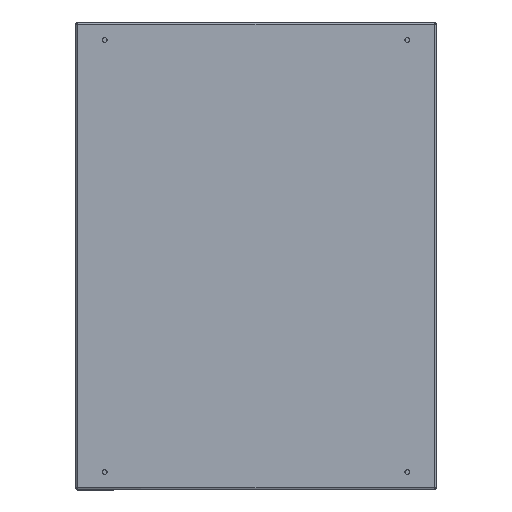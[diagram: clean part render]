
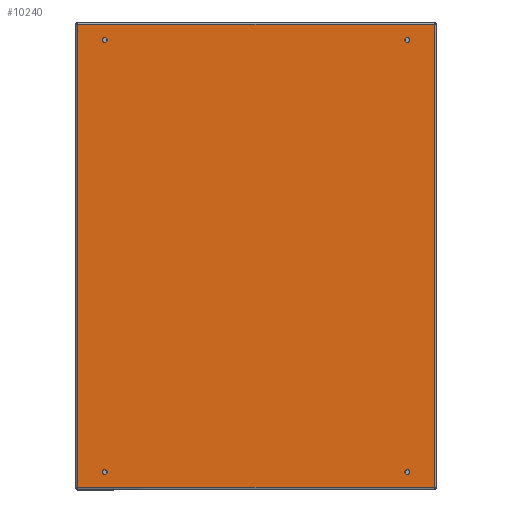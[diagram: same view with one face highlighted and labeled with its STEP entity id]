
A CAD part, front view. The second image highlights one B-rep face of the part: STEP entity #10240.
In plain terms, the highlighted planar face has unit normal (0, -1, 0).
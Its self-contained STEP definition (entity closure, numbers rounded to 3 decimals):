
#66 = CARTESIAN_POINT ( 'NONE',  ( 247.8, 0., -321.8 ) ) ;
#83 = EDGE_CURVE ( 'NONE', #7221, #2925, #1450, .T. ) ;
#265 = FACE_OUTER_BOUND ( 'NONE', #1356, .T. ) ;
#322 = LINE ( 'NONE', #8660, #8161 ) ;
#543 = CARTESIAN_POINT ( 'NONE',  ( -210., 0., -300. ) ) ;
#701 = ORIENTED_EDGE ( 'NONE', *, *, #5374, .T. ) ;
#963 = CIRCLE ( 'NONE', #6103, 3.25 ) ;
#1134 = CARTESIAN_POINT ( 'NONE',  ( -206.75, 0., 300. ) ) ;
#1356 = EDGE_LOOP ( 'NONE', ( #4377, #701, #9016, #1598 ) ) ;
#1370 = VERTEX_POINT ( 'NONE', #2521 ) ;
#1450 = LINE ( 'NONE', #7973, #10064 ) ;
#1506 = CIRCLE ( 'NONE', #8100, 3.25 ) ;
#1598 = ORIENTED_EDGE ( 'NONE', *, *, #83, .F. ) ;
#1719 = EDGE_CURVE ( 'NONE', #5055, #3778, #10534, .T. ) ;
#1799 = DIRECTION ( 'NONE',  ( 1., 0., 0. ) ) ;
#1872 = CARTESIAN_POINT ( 'NONE',  ( -247.8, 0., -321.8 ) ) ;
#1967 = AXIS2_PLACEMENT_3D ( 'NONE', #10855, #7459, #8274 ) ;
#2045 = AXIS2_PLACEMENT_3D ( 'NONE', #7253, #2173, #3876 ) ;
#2068 = ORIENTED_EDGE ( 'NONE', *, *, #6162, .T. ) ;
#2173 = DIRECTION ( 'NONE',  ( 0., 1., 0. ) ) ;
#2284 = VERTEX_POINT ( 'NONE', #3367 ) ;
#2339 = DIRECTION ( 'NONE',  ( 0., 1., 0. ) ) ;
#2467 = EDGE_LOOP ( 'NONE', ( #10931, #6896 ) ) ;
#2521 = CARTESIAN_POINT ( 'NONE',  ( 213.25, 0., 300. ) ) ;
#2693 = CIRCLE ( 'NONE', #1967, 3.25 ) ;
#2925 = VERTEX_POINT ( 'NONE', #7846 ) ;
#2934 = AXIS2_PLACEMENT_3D ( 'NONE', #5281, #10352, #3605 ) ;
#3020 = CARTESIAN_POINT ( 'NONE',  ( -206.75, 0., -300. ) ) ;
#3060 = FACE_BOUND ( 'NONE', #10220, .T. ) ;
#3071 = LINE ( 'NONE', #1872, #8380 ) ;
#3099 = DIRECTION ( 'NONE',  ( 0., 1., 0. ) ) ;
#3367 = CARTESIAN_POINT ( 'NONE',  ( -213.25, 0., 300. ) ) ;
#3605 = DIRECTION ( 'NONE',  ( -1., 0., 0. ) ) ;
#3637 = DIRECTION ( 'NONE',  ( 0., 1., 0. ) ) ;
#3672 = CIRCLE ( 'NONE', #2045, 3.25 ) ;
#3699 = CARTESIAN_POINT ( 'NONE',  ( 206.75, 0., -300. ) ) ;
#3709 = DIRECTION ( 'NONE',  ( 0., 0., 1. ) ) ;
#3715 = ORIENTED_EDGE ( 'NONE', *, *, #8061, .T. ) ;
#3778 = VERTEX_POINT ( 'NONE', #4024 ) ;
#3876 = DIRECTION ( 'NONE',  ( -1., 0., 0. ) ) ;
#3879 = AXIS2_PLACEMENT_3D ( 'NONE', #543, #2339, #6661 ) ;
#4024 = CARTESIAN_POINT ( 'NONE',  ( -213.25, 0., -300. ) ) ;
#4214 = AXIS2_PLACEMENT_3D ( 'NONE', #7082, #7966, #8049 ) ;
#4221 = EDGE_CURVE ( 'NONE', #1370, #8114, #3672, .T. ) ;
#4302 = DIRECTION ( 'NONE',  ( 0., 0., 1. ) ) ;
#4357 = CARTESIAN_POINT ( 'NONE',  ( -247.8, 0., -321.8 ) ) ;
#4377 = ORIENTED_EDGE ( 'NONE', *, *, #8479, .T. ) ;
#4399 = ORIENTED_EDGE ( 'NONE', *, *, #6423, .T. ) ;
#4413 = CIRCLE ( 'NONE', #3879, 3.25 ) ;
#4479 = CARTESIAN_POINT ( 'NONE',  ( 206.75, 0., 300. ) ) ;
#4512 = CARTESIAN_POINT ( 'NONE',  ( 210., 0., -300. ) ) ;
#4630 = AXIS2_PLACEMENT_3D ( 'NONE', #5871, #9096, #10004 ) ;
#5055 = VERTEX_POINT ( 'NONE', #3020 ) ;
#5281 = CARTESIAN_POINT ( 'NONE',  ( -247.8, 0., -324. ) ) ;
#5374 = EDGE_CURVE ( 'NONE', #5414, #6926, #10631, .T. ) ;
#5414 = VERTEX_POINT ( 'NONE', #6108 ) ;
#5626 = AXIS2_PLACEMENT_3D ( 'NONE', #8187, #3099, #7436 ) ;
#5871 = CARTESIAN_POINT ( 'NONE',  ( 210., 0., -300. ) ) ;
#5909 = ORIENTED_EDGE ( 'NONE', *, *, #1719, .T. ) ;
#5994 = VERTEX_POINT ( 'NONE', #9701 ) ;
#6103 = AXIS2_PLACEMENT_3D ( 'NONE', #4512, #3637, #7091 ) ;
#6108 = CARTESIAN_POINT ( 'NONE',  ( 247.8, 0., -321.8 ) ) ;
#6162 = EDGE_CURVE ( 'NONE', #5994, #8554, #8482, .T. ) ;
#6420 = VECTOR ( 'NONE', #4302, 1000. ) ;
#6423 = EDGE_CURVE ( 'NONE', #8114, #1370, #9265, .T. ) ;
#6489 = ORIENTED_EDGE ( 'NONE', *, *, #4221, .T. ) ;
#6528 = FACE_BOUND ( 'NONE', #10179, .T. ) ;
#6661 = DIRECTION ( 'NONE',  ( 1., 0., 0. ) ) ;
#6896 = ORIENTED_EDGE ( 'NONE', *, *, #8978, .T. ) ;
#6926 = VERTEX_POINT ( 'NONE', #8232 ) ;
#6982 = EDGE_LOOP ( 'NONE', ( #3715, #2068 ) ) ;
#7082 = CARTESIAN_POINT ( 'NONE',  ( 210., 0., 300. ) ) ;
#7091 = DIRECTION ( 'NONE',  ( -1., 0., 0. ) ) ;
#7221 = VERTEX_POINT ( 'NONE', #4357 ) ;
#7253 = CARTESIAN_POINT ( 'NONE',  ( 210., 0., 300. ) ) ;
#7436 = DIRECTION ( 'NONE',  ( 1., 0., 0. ) ) ;
#7459 = DIRECTION ( 'NONE',  ( 0., 1., 0. ) ) ;
#7575 = ORIENTED_EDGE ( 'NONE', *, *, #7638, .T. ) ;
#7638 = EDGE_CURVE ( 'NONE', #3778, #5055, #4413, .T. ) ;
#7648 = EDGE_CURVE ( 'NONE', #8489, #2284, #2693, .T. ) ;
#7846 = CARTESIAN_POINT ( 'NONE',  ( -247.8, 0., 321.8 ) ) ;
#7966 = DIRECTION ( 'NONE',  ( 0., 1., 0. ) ) ;
#7973 = CARTESIAN_POINT ( 'NONE',  ( -247.8, 0., -321.8 ) ) ;
#8049 = DIRECTION ( 'NONE',  ( -1., 0., 0. ) ) ;
#8061 = EDGE_CURVE ( 'NONE', #8554, #5994, #963, .T. ) ;
#8100 = AXIS2_PLACEMENT_3D ( 'NONE', #10013, #8202, #9004 ) ;
#8114 = VERTEX_POINT ( 'NONE', #4479 ) ;
#8161 = VECTOR ( 'NONE', #10303, 1000. ) ;
#8187 = CARTESIAN_POINT ( 'NONE',  ( -210., 0., -300. ) ) ;
#8202 = DIRECTION ( 'NONE',  ( 0., 1., 0. ) ) ;
#8232 = CARTESIAN_POINT ( 'NONE',  ( 247.8, 0., 321.8 ) ) ;
#8274 = DIRECTION ( 'NONE',  ( 1., 0., 0. ) ) ;
#8380 = VECTOR ( 'NONE', #1799, 1000. ) ;
#8479 = EDGE_CURVE ( 'NONE', #7221, #5414, #3071, .T. ) ;
#8482 = CIRCLE ( 'NONE', #4630, 3.25 ) ;
#8489 = VERTEX_POINT ( 'NONE', #1134 ) ;
#8554 = VERTEX_POINT ( 'NONE', #3699 ) ;
#8660 = CARTESIAN_POINT ( 'NONE',  ( 247.8, 0., 321.8 ) ) ;
#8783 = PLANE ( 'NONE',  #2934 ) ;
#8825 = EDGE_CURVE ( 'NONE', #6926, #2925, #322, .T. ) ;
#8978 = EDGE_CURVE ( 'NONE', #2284, #8489, #1506, .T. ) ;
#9004 = DIRECTION ( 'NONE',  ( 1., 0., 0. ) ) ;
#9016 = ORIENTED_EDGE ( 'NONE', *, *, #8825, .T. ) ;
#9096 = DIRECTION ( 'NONE',  ( 0., 1., 0. ) ) ;
#9265 = CIRCLE ( 'NONE', #4214, 3.25 ) ;
#9701 = CARTESIAN_POINT ( 'NONE',  ( 213.25, 0., -300. ) ) ;
#9826 = FACE_BOUND ( 'NONE', #6982, .T. ) ;
#10004 = DIRECTION ( 'NONE',  ( -1., 0., 0. ) ) ;
#10013 = CARTESIAN_POINT ( 'NONE',  ( -210., 0., 300. ) ) ;
#10064 = VECTOR ( 'NONE', #3709, 1000. ) ;
#10086 = FACE_BOUND ( 'NONE', #2467, .T. ) ;
#10179 = EDGE_LOOP ( 'NONE', ( #5909, #7575 ) ) ;
#10220 = EDGE_LOOP ( 'NONE', ( #4399, #6489 ) ) ;
#10240 = ADVANCED_FACE ( 'NONE', ( #265, #6528, #10086, #3060, #9826 ), #8783, .T. ) ;
#10303 = DIRECTION ( 'NONE',  ( -1., 0., 0. ) ) ;
#10352 = DIRECTION ( 'NONE',  ( 0., -1., 0. ) ) ;
#10534 = CIRCLE ( 'NONE', #5626, 3.25 ) ;
#10631 = LINE ( 'NONE', #66, #6420 ) ;
#10855 = CARTESIAN_POINT ( 'NONE',  ( -210., 0., 300. ) ) ;
#10931 = ORIENTED_EDGE ( 'NONE', *, *, #7648, .T. ) ;
